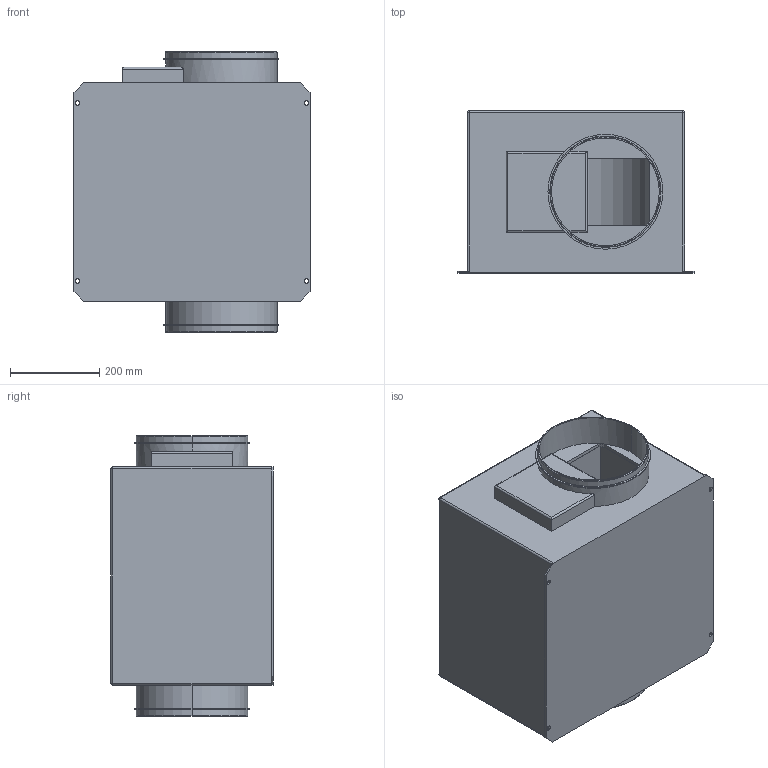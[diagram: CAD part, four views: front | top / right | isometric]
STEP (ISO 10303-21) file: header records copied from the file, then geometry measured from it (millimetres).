
FILE_DESCRIPTION(('STEP AP214'),'1');
FILE_NAME('fan_5113218100.stp','2017-03-31T12:39:26',('TraceParts'),('TraceParts S.A.'),'Spatial InterOp 3D',' ',' ');
FILE_SCHEMA(('automotive_design'));
Length unit declared in the file: millimetre
Products named in the file (1): fan_5113218100
Bounding box: 530 x 364 x 630 mm (x, y, z)
Volume: 11779088.4 mm3; surface area: 3183394.2 mm2
Topology: 1 solids, 1 shells, 114 faces, 293 edges, 188 vertices
Faces by surface type: cylinder 56, plane 50, torus 4, sphere 4
Entity records: 4441 total; most frequent: CARTESIAN_POINT 678, DIRECTION 637, ORIENTED_EDGE 578, EDGE_CURVE 289, AXIS2_PLACEMENT_3D 237, VERTEX_POINT 188, LINE 163, VECTOR 163
